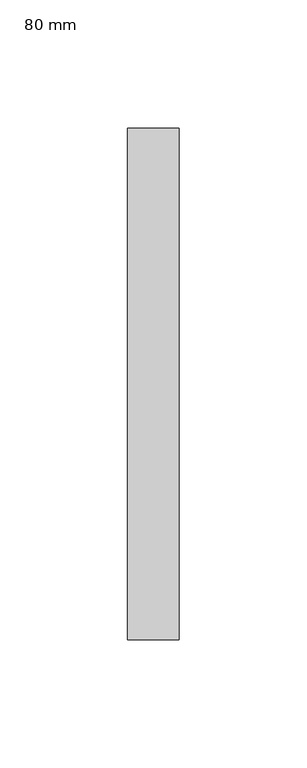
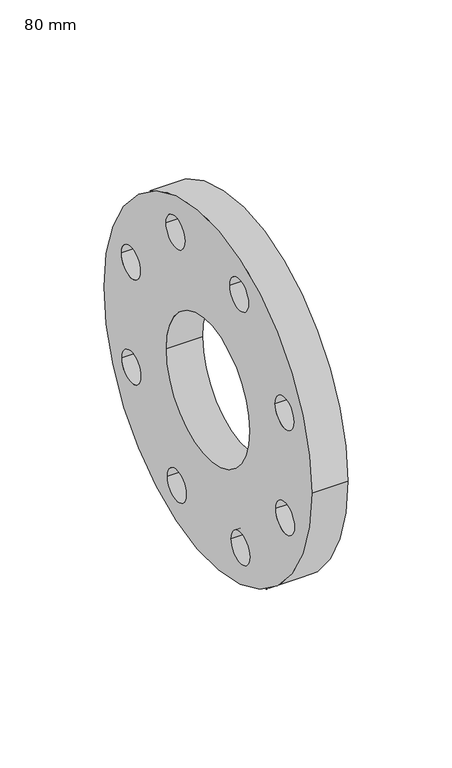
"""IFC4 building model written with IfcOpenShell, lengths in millimetres: pipe fitting geometry, BRIDA ACERO  DN_80 : 80 mm."""

from ifc_helpers import new_model, si_unit, point, frame, frame_2d, origin, origin_2d, place, context, project, spatial, circle_curve, trimmed, segment, composite_curve, outline, extrude, source, transform, mapped, element, save


def pipe_fitting_80_mm_63556b00(model_context):
    return source(origin(), model_context, "Body", "SweptSolid", [
        extrude(outline(composite_curve([segment(trimmed(circle_curve(origin_2d(), 100.0), [point((-100.0, 0.0))], [point((100.0, 0.0))], False, "CARTESIAN"), True, "CONTINUOUS"), segment(trimmed(circle_curve(origin_2d(), 100.0), [point((100.0, 0.0))], [point((-100.0, 0.0))], False, "CARTESIAN"), True, "CONTINUOUS")], self_intersect=False), holes=[composite_curve([segment(trimmed(circle_curve(frame_2d((-73.6403883, 31.2584903)), 9.0), [point((-82.6403883, 31.2584903))], [point((-64.6403883, 31.2584903))], True, "CARTESIAN"), True, "CONTINUOUS"), segment(trimmed(circle_curve(frame_2d((-73.6403883, 31.2584903)), 9.0), [point((-64.6403883, 31.2584903))], [point((-82.6403883, 31.2584903))], True, "CARTESIAN"), True, "CONTINUOUS")], self_intersect=False), composite_curve([segment(trimmed(circle_curve(frame_2d((-29.9685275, 74.1747084)), 9.0), [point((-38.9685275, 74.1747084))], [point((-20.9685275, 74.1747084))], True, "CARTESIAN"), True, "CONTINUOUS"), segment(trimmed(circle_curve(frame_2d((-29.9685275, 74.1747084)), 9.0), [point((-20.9685275, 74.1747084))], [point((-38.9685275, 74.1747084))], True, "CARTESIAN"), True, "CONTINUOUS")], self_intersect=False), composite_curve([segment(trimmed(circle_curve(frame_2d((31.2584903, 73.6403883)), 9.0), [point((22.2584903, 73.6403883))], [point((40.2584903, 73.6403883))], True, "CARTESIAN"), True, "CONTINUOUS"), segment(trimmed(circle_curve(frame_2d((31.2584903, 73.6403883)), 9.0), [point((40.2584903, 73.6403883))], [point((22.2584903, 73.6403883))], True, "CARTESIAN"), True, "CONTINUOUS")], self_intersect=False), composite_curve([segment(trimmed(circle_curve(frame_2d((74.1747084, 29.9685275)), 9.0), [point((65.1747084, 29.9685275))], [point((83.1747084, 29.9685275))], True, "CARTESIAN"), True, "CONTINUOUS"), segment(trimmed(circle_curve(frame_2d((74.1747084, 29.9685275)), 9.0), [point((83.1747084, 29.9685275))], [point((65.1747084, 29.9685275))], True, "CARTESIAN"), True, "CONTINUOUS")], self_intersect=False), composite_curve([segment(trimmed(circle_curve(frame_2d((73.6403883, -31.2584903)), 9.0), [point((64.6403883, -31.2584903))], [point((82.6403883, -31.2584903))], True, "CARTESIAN"), True, "CONTINUOUS"), segment(trimmed(circle_curve(frame_2d((73.6403883, -31.2584903)), 9.0), [point((82.6403883, -31.2584903))], [point((64.6403883, -31.2584903))], True, "CARTESIAN"), True, "CONTINUOUS")], self_intersect=False), composite_curve([segment(trimmed(circle_curve(frame_2d((29.9685275, -74.1747084)), 9.0), [point((20.9685275, -74.1747084))], [point((38.9685275, -74.1747084))], True, "CARTESIAN"), True, "CONTINUOUS"), segment(trimmed(circle_curve(frame_2d((29.9685275, -74.1747084)), 9.0), [point((38.9685275, -74.1747084))], [point((20.9685275, -74.1747084))], True, "CARTESIAN"), True, "CONTINUOUS")], self_intersect=False), composite_curve([segment(trimmed(circle_curve(frame_2d((-31.2584903, -73.6403883)), 9.0), [point((-40.2584903, -73.6403883))], [point((-22.2584903, -73.6403883))], True, "CARTESIAN"), True, "CONTINUOUS"), segment(trimmed(circle_curve(frame_2d((-31.2584903, -73.6403883)), 9.0), [point((-22.2584903, -73.6403883))], [point((-40.2584903, -73.6403883))], True, "CARTESIAN"), True, "CONTINUOUS")], self_intersect=False), composite_curve([segment(trimmed(circle_curve(frame_2d((-74.1747084, -29.9685275)), 9.0), [point((-83.1747084, -29.9685275))], [point((-65.1747084, -29.9685275))], True, "CARTESIAN"), True, "CONTINUOUS"), segment(trimmed(circle_curve(frame_2d((-74.1747084, -29.9685275)), 9.0), [point((-65.1747084, -29.9685275))], [point((-83.1747084, -29.9685275))], True, "CARTESIAN"), True, "CONTINUOUS")], self_intersect=False), composite_curve([segment(trimmed(circle_curve(origin_2d(), 40.0), [point((-40.0, 0.0))], [point((40.0, 0.0))], True, "CARTESIAN"), True, "CONTINUOUS"), segment(trimmed(circle_curve(origin_2d(), 40.0), [point((40.0, 0.0))], [point((-40.0, 0.0))], True, "CARTESIAN"), True, "CONTINUOUS")], self_intersect=False)]), frame((0.0, 0.0, 0.0), z_axis=(1.0, 0.0, 0.0), x_axis=(0.0, 1.0, 0.0)), (0.0, 0.0, 1.0), 20.0),
    ])


if __name__ == "__main__":
    model = new_model("IFC4")
    model_context = context("Model", 3, world=origin())
    ifc_project = project(units=[si_unit("LENGTHUNIT", "METRE", prefix="MILLI")], contexts=[model_context])
    site = spatial("IfcSite", under=ifc_project)
    building = spatial("IfcBuilding", under=site)
    placement = place(None, origin())
    pipe_fitting_80_mm_shape = pipe_fitting_80_mm_63556b00(model_context)
    element("IfcPipeFitting", 1, ObjectType="BRIDA ACERO  DN_80 : 80 mm", at=placement, inside=building, context=model_context, shape_type="MappedRepresentation", body=[
        mapped(pipe_fitting_80_mm_shape, transform((0.0, 0.0, 0.0), x_axis=(1.0, 0.0, 0.0), y_axis=(0.0, 1.0, 0.0), z_axis=(0.0, 0.0, 1.0))),
    ])
    save(model, "model.ifc")
